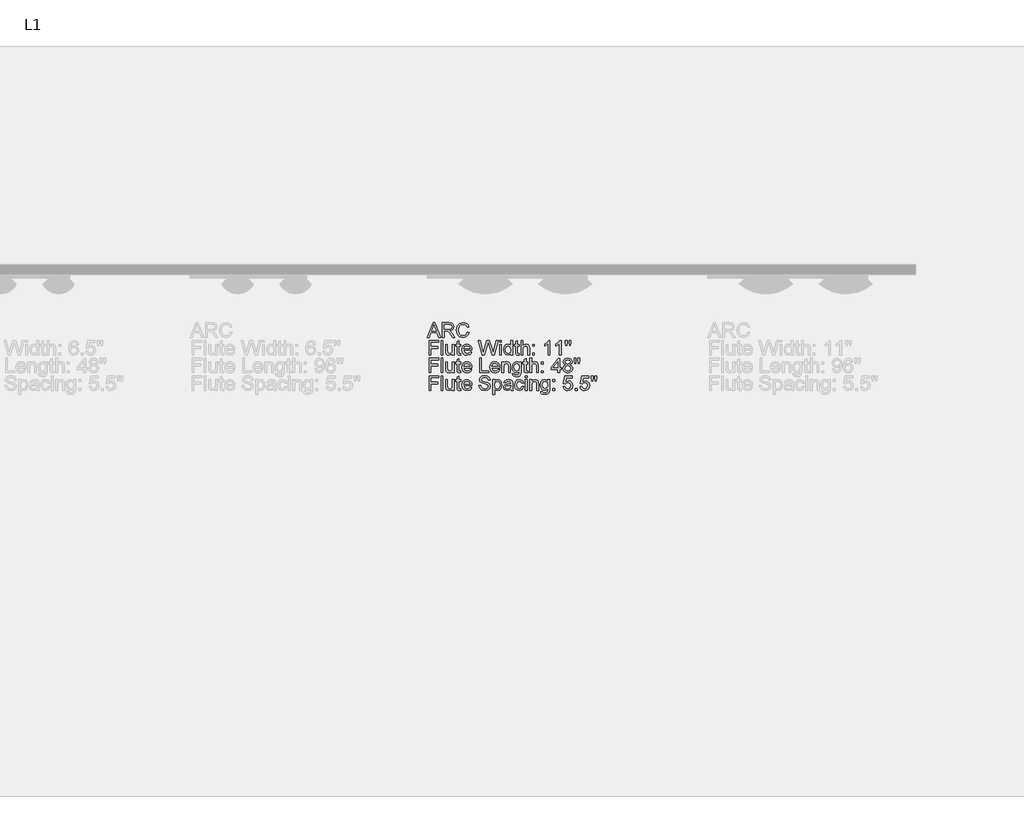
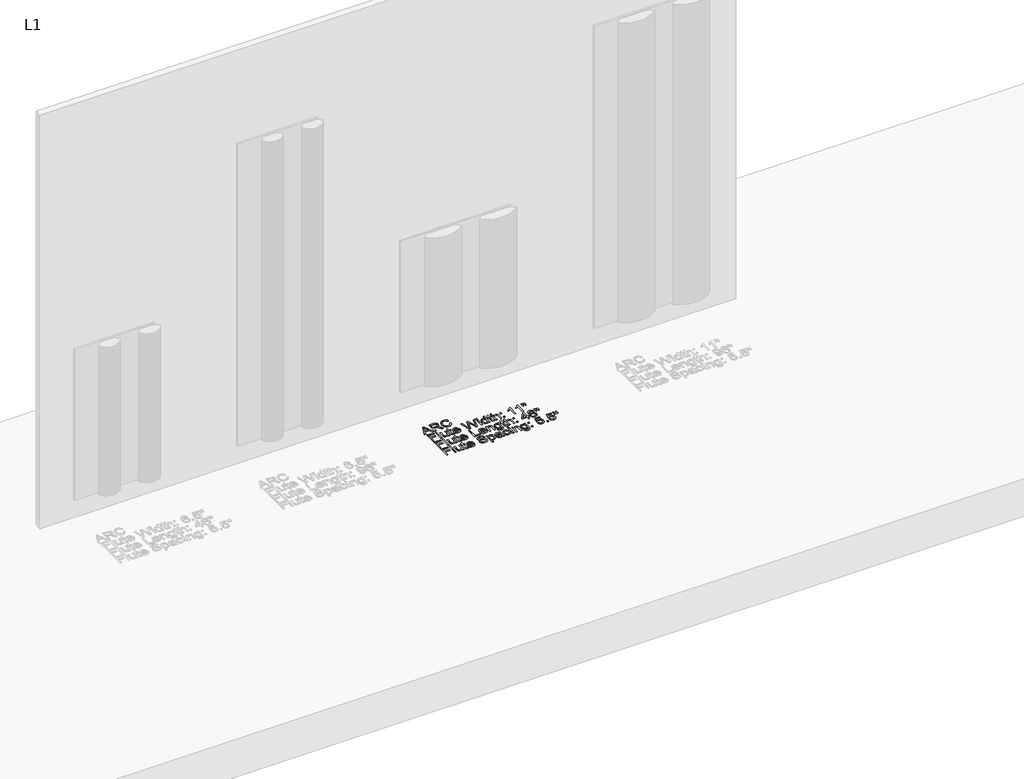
# One storey, part 5 of 17: 1 proxy.
"""IFC4 building model written with IfcOpenShell, lengths in millimetres."""

from ifc_helpers import new_model, si_unit, origin, origin_with_axes, place, context, project, spatial, polyline, outline, extrude, element, save

model = new_model("IFC4")

# Units and contexts
model_context = context("Model", 3, world=origin())
ifc_project = project(units=[si_unit("LENGTHUNIT", "METRE", prefix="MILLI")], contexts=[model_context])

# Site, building, storey
site = spatial("IfcSite", under=ifc_project)
building = spatial("IfcBuilding", under=site)
storey = spatial("IfcBuildingStorey", under=building, Name="L1", Elevation=0.0)

# Proxy
placement = place(None, origin())
element("IfcBuildingElementProxy", 1, Name="3\" Arial", ObjectType="3\" Arial", at=placement, inside=storey, context=model_context, shape_type="SweptSolid", body=[
    extrude(outline(polyline([(3993.6267247, -355.6), (4024.1822674, -279.0522917), (4032.3304121, -279.0522917), (4062.8672665, -355.6), (4052.7568392, -355.6), (4044.0106655, -331.6788411), (4012.4646372, -331.6788411), (4003.7184635, -355.6), (3993.6267247, -355.6)]), holes=[polyline([(4015.9780575, -322.1103776), (4040.5159337, -322.1103776), (4033.6012237, -303.2911534), (4028.2376514, -288.6207552), (4023.472108, -301.6465737), (4015.9780575, -322.1103776)])]), origin_with_axes(), (0.0, 0.0, 1.0), 3.175),
    extrude(outline(polyline([(4073.0898242, -355.6), (4073.0898242, -279.0522917), (4106.0748597, -279.0522917), (4121.3900079, -281.1173605), (4129.7624135, -288.424527), (4132.8927214, -300.0019941), (4127.7066889, -313.7940372), (4111.6813813, -320.9143197), (4117.1197072, -325.0070804), (4124.8753955, -334.8558701), (4137.6395763, -355.6), (4126.5199751, -355.6), (4116.5590551, -339.7335439), (4109.364019, -329.23066), (4104.3088054, -324.2688884), (4099.7581787, -322.4467689), (4094.2077223, -322.1103776), (4082.6582878, -322.1103776), (4082.6582878, -355.6), (4073.0898242, -355.6)]), holes=[polyline([(4082.6582878, -312.5419141), (4104.0752003, -312.5419141), (4114.9985732, -311.1870047), (4121.2031238, -306.8512946), (4123.3242578, -300.3570738), (4119.2782181, -291.928603), (4106.4860046, -288.6207552), (4082.6582878, -288.6207552), (4082.6582878, -312.5419141)])]), origin_with_axes(), (0.0, 0.0, 1.0), 3.175),
    extrude(outline(polyline([(4203.46014, -328.3896818), (4213.0286035, -330.8565513), (4208.6134678, -342.0065212), (4201.6847415, -350.1523298), (4192.5834881, -355.1351259), (4181.6507709, -356.7960579), (4161.738275, -351.7688769), (4150.0580217, -337.2106091), (4146.0493587, -316.7468053), (4150.581297, -295.9466101), (4163.4669525, -282.4629256), (4181.8563434, -277.8562337), (4192.3475469, -279.3466341), (4201.0213031, -283.817835), (4207.6066299, -290.9941827), (4211.8325456, -300.600023), (4202.264082, -302.8800085), (4194.4149518, -291.1156573), (4181.4825753, -287.4246973), (4166.5131626, -291.517458), (4158.0566592, -302.5062404), (4155.6178223, -316.7281169), (4158.5051809, -333.2112904), (4167.4943039, -343.7422068), (4180.6976623, -347.2275944), (4195.3400278, -342.4807394), (4203.46014, -328.3896818)])), origin_with_axes(), (0.0, 0.0, 1.0), 3.175),
    extrude(outline(polyline([(4002.5224056, -448.5448112), (4002.5224056, -371.9971029), (4053.9528971, -371.9971029), (4053.9528971, -381.5655664), (4012.0908691, -381.5655664), (4012.0908691, -404.2906673), (4047.9726074, -404.2906673), (4047.9726074, -413.8591309), (4012.0908691, -413.8591309), (4012.0908691, -448.5448112), (4002.5224056, -448.5448112)])), origin_with_axes(), (0.0, 0.0, 1.0), 3.175),
    extrude(outline(polyline([(4065.9134766, -448.5448112), (4065.9134766, -371.9971029), (4075.4819401, -371.9971029), (4075.4819401, -448.5448112), (4065.9134766, -448.5448112)])), origin_with_axes(), (0.0, 0.0, 1.0), 3.175),
    extrude(outline(polyline([(4125.7163737, -448.5448112), (4125.7163737, -438.8829056), (4118.2223232, -447.0263783), (4108.4482872, -449.7408691), (4099.44982, -447.8346518), (4093.2452694, -443.05042), (4090.3952876, -436.0048912), (4089.8346354, -427.1092103), (4089.8346354, -392.3300879), (4099.403099, -392.3300879), (4099.403099, -422.6053046), (4099.9824395, -432.3606522), (4103.7668416, -438.0886484), (4110.8964683, -440.1724056), (4118.8857615, -438.0419274), (4124.1652361, -432.2391775), (4125.7163737, -421.5774423), (4125.7163737, -392.3300879), (4135.2848372, -392.3300879), (4135.2848372, -448.5448112), (4125.7163737, -448.5448112)])), origin_with_axes(), (0.0, 0.0, 1.0), 3.175),
    extrude(outline(polyline([(4168.7744596, -440.5648621), (4169.9705176, -448.8251373), (4162.8128583, -449.7408691), (4154.7955324, -448.1523547), (4150.7962137, -443.9848403), (4149.6375326, -433.1268768), (4149.6375326, -401.8985514), (4142.4611849, -401.8985514), (4142.4611849, -392.3300879), (4149.6375326, -392.3300879), (4149.6375326, -378.6688636), (4159.2059961, -373.0436536), (4159.2059961, -392.3300879), (4168.7744596, -392.3300879), (4168.7744596, -401.8985514), (4159.2059961, -401.8985514), (4159.2059961, -432.8465507), (4159.710583, -437.7802897), (4161.3458185, -439.5276556), (4164.6069452, -440.1724056), (4168.7744596, -440.5648621)])), origin_with_axes(), (0.0, 0.0, 1.0), 3.175),
    extrude(outline(polyline([(4217.7007049, -431.8), (4227.0822843, -432.9960579), (4218.308078, -445.3490939), (4201.9650675, -449.7408691), (4190.738008, -447.846332), (4182.0992927, -442.1627208), (4176.5908852, -433.0591313), (4174.7547494, -420.9046597), (4176.6095736, -408.3413792), (4182.1740463, -398.9457834), (4190.6959591, -393.0869683), (4201.4231038, -391.1340299), (4211.8161932, -393.0822962), (4220.1208533, -398.927095), (4225.5661875, -408.3040024), (4227.3812988, -420.8485945), (4227.3252336, -423.4275944), (4184.3232129, -423.4275944), (4189.8269483, -435.855384), (4202.1519516, -440.1724056), (4211.5335311, -438.1727462), (4217.7007049, -431.8)]), holes=[polyline([(4184.3232129, -413.8591309), (4217.8128353, -413.8591309), (4213.9817122, -405.1877108), (4201.385727, -400.7024935), (4189.6026874, -404.2813231), (4184.3232129, -413.8591309)])]), origin_with_axes(), (0.0, 0.0, 1.0), 3.175),
    extrude(outline(polyline([(4281.74587, -448.5448112), (4260.8709212, -371.9971029), (4270.7383993, -371.9971029), (4282.8484859, -422.3062901), (4286.586167, -437.8363549), (4290.5854857, -424.100377), (4305.7604709, -371.9971029), (4319.9823474, -371.9971029), (4331.0085065, -409.7663701), (4339.2127165, -437.8363549), (4342.8382671, -422.7548118), (4355.0417958, -371.9971029), (4364.9279622, -371.9971029), (4344.0717019, -448.5448112), (4333.8304557, -448.5448112), (4315.4597533, -389.4894503), (4312.8994417, -381.2478635), (4310.0214273, -391.1714068), (4293.2953045, -448.5448112), (4281.74587, -448.5448112)])), origin_with_axes(), (0.0, 0.0, 1.0), 3.175),
    extrude(outline(polyline([(4373.3003678, -448.5448112), (4373.3003678, -392.3300879), (4382.8688314, -392.3300879), (4382.8688314, -448.5448112), (4373.3003678, -448.5448112)])), origin_with_axes(), (0.0, 0.0, 1.0), 3.175),
    extrude(outline(polyline([(4373.3003678, -381.5655664), (4373.3003678, -371.9971029), (4382.8688314, -371.9971029), (4382.8688314, -381.5655664), (4373.3003678, -381.5655664)])), origin_with_axes(), (0.0, 0.0, 1.0), 3.175),
    extrude(outline(polyline([(4431.907207, -448.5448112), (4431.907207, -439.5183114), (4425.5765097, -447.1852297), (4416.8256639, -449.7408691), (4404.9772149, -446.0405649), (4396.6048093, -435.7152209), (4393.6333529, -420.4935148), (4396.3712043, -405.2624644), (4404.5754142, -394.778269), (4416.7882871, -391.1340299), (4425.6092144, -393.7410625), (4431.907207, -400.5156094), (4431.907207, -371.9971029), (4441.4756706, -371.9971029), (4441.4756706, -448.5448112), (4431.907207, -448.5448112)]), holes=[polyline([(4403.2018164, -420.4561379), (4407.518838, -435.2666992), (4417.704019, -440.1724056), (4427.7677252, -435.4909601), (4431.907207, -421.1849858), (4427.6929716, -405.6549209), (4417.3115625, -400.7024935), (4407.238512, -405.4586927), (4403.2018164, -420.4561379)])]), origin_with_axes(), (0.0, 0.0, 1.0), 3.175),
    extrude(outline(polyline([(4476.1613509, -440.5648621), (4477.3574089, -448.8251373), (4470.1997496, -449.7408691), (4462.1824237, -448.1523547), (4458.183105, -443.9848403), (4457.0244238, -433.1268768), (4457.0244238, -401.8985514), (4449.8480762, -401.8985514), (4449.8480762, -392.3300879), (4457.0244238, -392.3300879), (4457.0244238, -378.6688636), (4466.5928874, -373.0436536), (4466.5928874, -392.3300879), (4476.1613509, -392.3300879), (4476.1613509, -401.8985514), (4466.5928874, -401.8985514), (4466.5928874, -432.8465507), (4467.0974743, -437.7802897), (4468.7327098, -439.5276556), (4471.9938365, -440.1724056), (4476.1613509, -440.5648621)])), origin_with_axes(), (0.0, 0.0, 1.0), 3.175),
    extrude(outline(polyline([(4485.7298145, -448.5448112), (4485.7298145, -371.9971029), (4495.298278, -371.9971029), (4495.298278, -400.1418413), (4502.7596238, -393.3859828), (4511.9496472, -391.1340299), (4522.6954802, -393.5915553), (4529.2177337, -400.3847906), (4531.1800163, -412.9620874), (4531.1800163, -448.5448112), (4521.6115527, -448.5448112), (4521.6115527, -413.9525729), (4518.5653427, -403.860834), (4509.9312994, -400.7024935), (4502.0915133, -402.8329717), (4496.8587598, -408.607689), (4495.298278, -418.6807394), (4495.298278, -448.5448112), (4485.7298145, -448.5448112)])), origin_with_axes(), (0.0, 0.0, 1.0), 3.175),
    extrude(outline(polyline([(4546.7287695, -401.8985514), (4546.7287695, -392.3300879), (4556.2972331, -392.3300879), (4556.2972331, -401.8985514), (4546.7287695, -401.8985514)])), origin_with_axes(), (0.0, 0.0, 1.0), 3.175),
    extrude(outline(polyline([(4546.7287695, -448.5448112), (4546.7287695, -438.9763477), (4556.2972331, -438.9763477), (4556.2972331, -448.5448112), (4546.7287695, -448.5448112)])), origin_with_axes(), (0.0, 0.0, 1.0), 3.175),
    extrude(outline(polyline([(4637.6291732, -448.5448112), (4628.0607096, -448.5448112), (4628.0607096, -388.8914213), (4618.996833, -395.3482654), (4608.9237826, -400.1792181), (4608.9237826, -391.1340299), (4622.9494308, -382.1822838), (4631.4619994, -371.9971029), (4637.6291732, -371.9971029), (4637.6291732, -448.5448112)])), origin_with_axes(), (0.0, 0.0, 1.0), 3.175),
    extrude(outline(polyline([(4696.2360124, -448.5448112), (4686.6675488, -448.5448112), (4686.6675488, -388.8914213), (4677.6036722, -395.3482654), (4667.5306218, -400.1792181), (4667.5306218, -391.1340299), (4681.55627, -382.1822838), (4690.0688386, -371.9971029), (4696.2360124, -371.9971029), (4696.2360124, -448.5448112)])), origin_with_axes(), (0.0, 0.0, 1.0), 3.175),
    extrude(outline(polyline([(4721.297164, -399.5064355), (4718.9611133, -384.7239069), (4718.9611133, -371.9971029), (4728.5295768, -371.9971029), (4728.5295768, -384.7239069), (4726.4364754, -399.5064355), (4721.297164, -399.5064355)])), origin_with_axes(), (0.0, 0.0, 1.0), 3.175),
    extrude(outline(polyline([(4740.3780258, -399.5064355), (4738.0980404, -384.7239069), (4738.0980404, -371.9971029), (4747.6665039, -371.9971029), (4747.6665039, -384.7239069), (4745.4238953, -399.5064355), (4740.3780258, -399.5064355)])), origin_with_axes(), (0.0, 0.0, 1.0), 3.175),
    extrude(outline(polyline([(4002.5224056, -541.4896224), (4002.5224056, -464.9419141), (4053.9528971, -464.9419141), (4053.9528971, -474.5103776), (4012.0908691, -474.5103776), (4012.0908691, -497.2354785), (4047.9726074, -497.2354785), (4047.9726074, -506.8039421), (4012.0908691, -506.8039421), (4012.0908691, -541.4896224), (4002.5224056, -541.4896224)])), origin_with_axes(), (0.0, 0.0, 1.0), 3.175),
    extrude(outline(polyline([(4065.9134766, -541.4896224), (4065.9134766, -464.9419141), (4075.4819401, -464.9419141), (4075.4819401, -541.4896224), (4065.9134766, -541.4896224)])), origin_with_axes(), (0.0, 0.0, 1.0), 3.175),
    extrude(outline(polyline([(4125.7163737, -541.4896224), (4125.7163737, -531.8277168), (4118.2223232, -539.9711895), (4108.4482872, -542.6856803), (4099.44982, -540.779463), (4093.2452694, -535.9952312), (4090.3952876, -528.9497024), (4089.8346354, -520.0540215), (4089.8346354, -485.2748991), (4099.403099, -485.2748991), (4099.403099, -515.5501158), (4099.9824395, -525.3054634), (4103.7668416, -531.0334596), (4110.8964683, -533.1172168), (4118.8857615, -530.9867386), (4124.1652361, -525.1839887), (4125.7163737, -514.5222535), (4125.7163737, -485.2748991), (4135.2848372, -485.2748991), (4135.2848372, -541.4896224), (4125.7163737, -541.4896224)])), origin_with_axes(), (0.0, 0.0, 1.0), 3.175),
    extrude(outline(polyline([(4168.7744596, -533.5096733), (4169.9705176, -541.7699485), (4162.8128583, -542.6856803), (4154.7955324, -541.0971659), (4150.7962137, -536.9296515), (4149.6375326, -526.071688), (4149.6375326, -494.8433626), (4142.4611849, -494.8433626), (4142.4611849, -485.2748991), (4149.6375326, -485.2748991), (4149.6375326, -471.6136748), (4159.2059961, -465.9884648), (4159.2059961, -485.2748991), (4168.7744596, -485.2748991), (4168.7744596, -494.8433626), (4159.2059961, -494.8433626), (4159.2059961, -525.7913619), (4159.710583, -530.7251009), (4161.3458185, -532.4724668), (4164.6069452, -533.1172168), (4168.7744596, -533.5096733)])), origin_with_axes(), (0.0, 0.0, 1.0), 3.175),
    extrude(outline(polyline([(4217.7007049, -524.7448112), (4227.0822843, -525.9408691), (4218.308078, -538.2939051), (4201.9650675, -542.6856803), (4190.738008, -540.7911432), (4182.0992927, -535.107532), (4176.5908852, -526.0039425), (4174.7547494, -513.8494709), (4176.6095736, -501.2861904), (4182.1740463, -491.8905946), (4190.6959591, -486.0317795), (4201.4231038, -484.0788411), (4211.8161932, -486.0271074), (4220.1208533, -491.8719062), (4225.5661875, -501.2488136), (4227.3812988, -513.7934057), (4227.3252336, -516.3724056), (4184.3232129, -516.3724056), (4189.8269483, -528.8001952), (4202.1519516, -533.1172168), (4211.5335311, -531.1175574), (4217.7007049, -524.7448112)]), holes=[polyline([(4184.3232129, -506.8039421), (4217.8128353, -506.8039421), (4213.9817122, -498.132522), (4201.385727, -493.6473047), (4189.6026874, -497.2261343), (4184.3232129, -506.8039421)])]), origin_with_axes(), (0.0, 0.0, 1.0), 3.175),
    extrude(outline(polyline([(4268.0472689, -541.4896224), (4268.0472689, -464.9419141), (4277.6157324, -464.9419141), (4277.6157324, -531.9211589), (4315.8895866, -531.9211589), (4315.8895866, -541.4896224), (4268.0472689, -541.4896224)])), origin_with_axes(), (0.0, 0.0, 1.0), 3.175),
    extrude(outline(polyline([(4364.8158318, -524.7448112), (4374.1974113, -525.9408691), (4365.423205, -538.2939051), (4349.0801945, -542.6856803), (4337.853135, -540.7911432), (4329.2144196, -535.107532), (4323.7060121, -526.0039425), (4321.8698763, -513.8494709), (4323.7247005, -501.2861904), (4329.2891732, -491.8905946), (4337.8110861, -486.0317795), (4348.5382307, -484.0788411), (4358.9313202, -486.0271074), (4367.2359803, -491.8719062), (4372.6813144, -501.2488136), (4374.4964258, -513.7934057), (4374.4403606, -516.3724056), (4331.4383398, -516.3724056), (4336.9420752, -528.8001952), (4349.2670786, -533.1172168), (4358.648658, -531.1175574), (4364.8158318, -524.7448112)]), holes=[polyline([(4331.4383398, -506.8039421), (4364.9279622, -506.8039421), (4361.0968391, -498.132522), (4348.5008539, -493.6473047), (4336.7178144, -497.2261343), (4331.4383398, -506.8039421)])]), origin_with_axes(), (0.0, 0.0, 1.0), 3.175),
    extrude(outline(polyline([(4384.0648893, -541.4896224), (4384.0648893, -485.2748991), (4393.6333529, -485.2748991), (4393.6333529, -493.1240293), (4400.9498636, -486.3401382), (4410.9388162, -484.0788411), (4419.9746602, -485.9009607), (4426.141834, -490.6851924), (4429.0105042, -497.7213771), (4429.5150911, -506.9721377), (4429.5150911, -541.4896224), (4419.9466276, -541.4896224), (4419.9466276, -508.2616377), (4418.8440117, -499.79579), (4414.9474792, -495.319917), (4408.3785047, -493.6473047), (4397.9970955, -497.4036742), (4393.6333529, -511.6629274), (4393.6333529, -541.4896224), (4384.0648893, -541.4896224)])), origin_with_axes(), (0.0, 0.0, 1.0), 3.175),
    extrude(outline(polyline([(4440.2796126, -546.2738542), (4449.8480762, -547.4699121), (4452.9503515, -552.5157816), (4462.2384889, -554.6462598), (4472.0312133, -552.2354555), (4476.7033147, -545.4702527), (4477.3574089, -534.3132747), (4470.6202387, -539.6955355), (4462.4066846, -541.4896224), (4452.5415426, -539.4011931), (4445.185319, -533.1359052), (4440.6089958, -523.950554), (4439.0835547, -513.1019347), (4441.8214061, -498.272685), (4449.7452899, -487.7791454), (4461.9394744, -484.0788411), (4470.4754036, -486.1719425), (4477.3574089, -492.4512467), (4477.3574089, -485.2748991), (4486.9258724, -485.2748991), (4486.9258724, -533.8086878), (4484.3094957, -552.3943069), (4476.0211879, -561.0376944), (4462.0516049, -564.2147233), (4446.1384277, -559.7388502), (4441.6415302, -554.1346647), (4440.2796126, -546.2738542)]), holes=[polyline([(4448.6520182, -512.4478405), (4452.7354348, -527.2584017), (4462.9860251, -531.9211589), (4473.2179271, -527.2864343), (4477.3574089, -512.7281666), (4473.0964524, -498.4595691), (4462.8365179, -493.6473047), (4452.7915, -498.3848154), (4448.6520182, -512.4478405)])]), origin_with_axes(), (0.0, 0.0, 1.0), 3.175),
    extrude(outline(polyline([(4521.6115527, -533.5096733), (4522.8076107, -541.7699485), (4515.6499514, -542.6856803), (4507.6326255, -541.0971659), (4503.6333068, -536.9296515), (4502.4746257, -526.071688), (4502.4746257, -494.8433626), (4495.298278, -494.8433626), (4495.298278, -485.2748991), (4502.4746257, -485.2748991), (4502.4746257, -471.6136748), (4512.0430892, -465.9884648), (4512.0430892, -485.2748991), (4521.6115527, -485.2748991), (4521.6115527, -494.8433626), (4512.0430892, -494.8433626), (4512.0430892, -525.7913619), (4512.5476761, -530.7251009), (4514.1829116, -532.4724668), (4517.4440383, -533.1172168), (4521.6115527, -533.5096733)])), origin_with_axes(), (0.0, 0.0, 1.0), 3.175),
    extrude(outline(polyline([(4531.1800163, -541.4896224), (4531.1800163, -464.9419141), (4540.7484798, -464.9419141), (4540.7484798, -493.0866525), (4548.2098257, -486.330794), (4557.399849, -484.0788411), (4568.1456821, -486.5363664), (4574.6679355, -493.3296018), (4576.6302181, -505.9068986), (4576.6302181, -541.4896224), (4567.0617546, -541.4896224), (4567.0617546, -506.8973841), (4564.0155445, -496.8056452), (4555.3815012, -493.6473047), (4547.5417152, -495.7777829), (4542.3089617, -501.5525002), (4540.7484798, -511.6255506), (4540.7484798, -541.4896224), (4531.1800163, -541.4896224)])), origin_with_axes(), (0.0, 0.0, 1.0), 3.175),
    extrude(outline(polyline([(4592.1789714, -494.8433626), (4592.1789714, -485.2748991), (4601.7474349, -485.2748991), (4601.7474349, -494.8433626), (4592.1789714, -494.8433626)])), origin_with_axes(), (0.0, 0.0, 1.0), 3.175),
    extrude(outline(polyline([(4592.1789714, -541.4896224), (4592.1789714, -531.9211589), (4601.7474349, -531.9211589), (4601.7474349, -541.4896224), (4592.1789714, -541.4896224)])), origin_with_axes(), (0.0, 0.0, 1.0), 3.175),
    extrude(outline(polyline([(4678.2951432, -541.4896224), (4678.2951432, -523.5487533), (4643.6094629, -523.5487533), (4643.6094629, -513.9802897), (4680.6872591, -466.137972), (4687.8636068, -466.137972), (4687.8636068, -513.9802897), (4697.4320703, -513.9802897), (4697.4320703, -523.5487533), (4687.8636068, -523.5487533), (4687.8636068, -541.4896224), (4678.2951432, -541.4896224)]), holes=[polyline([(4678.2951432, -513.9802897), (4678.2951432, -484.4152324), (4655.3831583, -513.9802897), (4678.2951432, -513.9802897)])]), origin_with_axes(), (0.0, 0.0, 1.0), 3.175),
    extrude(outline(polyline([(4719.7460263, -499.3285799), (4711.0278852, -493.385667), (4708.1965918, -484.1349064), (4709.7383852, -476.6548721), (4714.3637656, -470.473682), (4721.5541295, -466.3248561), (4730.7908739, -464.9419141), (4740.0836834, -466.3575608), (4747.3674894, -470.6045009), (4752.0769676, -476.8838051), (4753.6467936, -484.396544), (4750.852877, -493.4136996), (4742.3776852, -499.3285799), (4752.5535219, -506.8319747), (4756.0389095, -519.2130432), (4754.310232, -528.3610176), (4749.1241995, -535.9204776), (4741.1162178, -540.9943797), (4730.9216927, -542.6856803), (4720.7271676, -540.9873715), (4712.7191859, -535.892445), (4707.5331534, -528.2605675), (4705.8044759, -518.9514055), (4709.4300266, -506.2806667), (4719.7460263, -499.3285799)]), holes=[polyline([(4715.3729395, -518.6150142), (4716.9707981, -525.8193945), (4722.6240407, -531.2109995), (4730.9964463, -533.1172168), (4742.3963736, -529.1085538), (4746.470446, -518.9140287), (4742.2655548, -508.5232753), (4730.6787434, -504.4118262), (4719.4189792, -508.4672101), (4715.3729395, -518.6150142)]), polyline([(4717.7650553, -484.4152324), (4721.1570009, -491.9279714), (4731.0338231, -494.8433626), (4740.7144171, -491.9466598), (4744.0783301, -484.8450658), (4740.6022867, -477.4911783), (4730.9216927, -474.5103776), (4721.2130661, -477.4257688), (4717.7650553, -484.4152324)])]), origin_with_axes(), (0.0, 0.0, 1.0), 3.175),
    extrude(outline(polyline([(4766.7473658, -492.4512467), (4764.4113151, -477.6687181), (4764.4113151, -464.9419141), (4773.9797787, -464.9419141), (4773.9797787, -477.6687181), (4771.8866773, -492.4512467), (4766.7473658, -492.4512467)])), origin_with_axes(), (0.0, 0.0, 1.0), 3.175),
    extrude(outline(polyline([(4785.8282276, -492.4512467), (4783.5482422, -477.6687181), (4783.5482422, -464.9419141), (4793.1167057, -464.9419141), (4793.1167057, -477.6687181), (4790.8740971, -492.4512467), (4785.8282276, -492.4512467)])), origin_with_axes(), (0.0, 0.0, 1.0), 3.175),
    extrude(outline(polyline([(4002.5224056, -634.4344336), (4002.5224056, -557.8867253), (4053.9528971, -557.8867253), (4053.9528971, -567.4551888), (4012.0908691, -567.4551888), (4012.0908691, -590.1802897), (4047.9726074, -590.1802897), (4047.9726074, -599.7487533), (4012.0908691, -599.7487533), (4012.0908691, -634.4344336), (4002.5224056, -634.4344336)])), origin_with_axes(), (0.0, 0.0, 1.0), 3.175),
    extrude(outline(polyline([(4065.9134766, -634.4344336), (4065.9134766, -557.8867253), (4075.4819401, -557.8867253), (4075.4819401, -634.4344336), (4065.9134766, -634.4344336)])), origin_with_axes(), (0.0, 0.0, 1.0), 3.175),
    extrude(outline(polyline([(4125.7163737, -634.4344336), (4125.7163737, -624.772528), (4118.2223232, -632.9160007), (4108.4482872, -635.6304915), (4099.44982, -633.7242742), (4093.2452694, -628.9400424), (4090.3952876, -621.8945136), (4089.8346354, -612.9988327), (4089.8346354, -578.2197103), (4099.403099, -578.2197103), (4099.403099, -608.494927), (4099.9824395, -618.2502746), (4103.7668416, -623.9782708), (4110.8964683, -626.062028), (4118.8857615, -623.9315498), (4124.1652361, -618.1287999), (4125.7163737, -607.4670647), (4125.7163737, -578.2197103), (4135.2848372, -578.2197103), (4135.2848372, -634.4344336), (4125.7163737, -634.4344336)])), origin_with_axes(), (0.0, 0.0, 1.0), 3.175),
    extrude(outline(polyline([(4168.7744596, -626.4544845), (4169.9705176, -634.7147597), (4162.8128583, -635.6304915), (4154.7955324, -634.0419771), (4150.7962137, -629.8744627), (4149.6375326, -619.0164992), (4149.6375326, -587.7881738), (4142.4611849, -587.7881738), (4142.4611849, -578.2197103), (4149.6375326, -578.2197103), (4149.6375326, -564.558486), (4159.2059961, -558.933276), (4159.2059961, -578.2197103), (4168.7744596, -578.2197103), (4168.7744596, -587.7881738), (4159.2059961, -587.7881738), (4159.2059961, -618.7361731), (4159.710583, -623.6699121), (4161.3458185, -625.417278), (4164.6069452, -626.062028), (4168.7744596, -626.4544845)])), origin_with_axes(), (0.0, 0.0, 1.0), 3.175),
    extrude(outline(polyline([(4217.7007049, -617.6896224), (4227.0822843, -618.8856803), (4218.308078, -631.2387163), (4201.9650675, -635.6304915), (4190.738008, -633.7359544), (4182.0992927, -628.0523432), (4176.5908852, -618.9487537), (4174.7547494, -606.7942821), (4176.6095736, -594.2310016), (4182.1740463, -584.8354058), (4190.6959591, -578.9765907), (4201.4231038, -577.0236523), (4211.8161932, -578.9719186), (4220.1208533, -584.8167174), (4225.5661875, -594.1936248), (4227.3812988, -606.7382169), (4227.3252336, -609.3172168), (4184.3232129, -609.3172168), (4189.8269483, -621.7450064), (4202.1519516, -626.062028), (4211.5335311, -624.0623686), (4217.7007049, -617.6896224)]), holes=[polyline([(4184.3232129, -599.7487533), (4217.8128353, -599.7487533), (4213.9817122, -591.0773332), (4201.385727, -586.5921159), (4189.6026874, -590.1709455), (4184.3232129, -599.7487533)])]), origin_with_axes(), (0.0, 0.0, 1.0), 3.175),
    extrude(outline(polyline([(4264.4590951, -608.1211589), (4274.0275586, -608.1211589), (4277.1111455, -617.6989666), (4284.6425728, -623.7540099), (4296.1172537, -626.062028), (4306.1155506, -624.3146621), (4312.5723946, -619.5117419), (4314.6935286, -613.0922747), (4313.1050142, -607.1213292), (4306.6014491, -602.7762749), (4292.6692429, -599.1226917), (4277.6717976, -594.4038693), (4269.5329971, -587.2835869), (4266.8512109, -577.7711886), (4270.1684029, -566.9412577), (4279.8583411, -559.2976999), (4294.0428407, -556.6906673), (4309.1804491, -559.4191745), (4319.272188, -567.4365004), (4323.0659342, -579.4157682), (4313.4974707, -579.4157682), (4308.0778332, -569.585667), (4294.4166088, -566.2591309), (4280.7180077, -569.5482902), (4276.4196745, -577.4908625), (4279.4658846, -584.1252464), (4295.0893914, -589.4701303), (4312.0210867, -594.2730505), (4321.2811915, -602.0287387), (4324.2619922, -612.8493254), (4320.8326698, -624.2959737), (4310.9651918, -632.6496909), (4296.4910218, -635.6304915), (4279.4004751, -632.4160858), (4268.5892326, -622.7354918), (4264.4590951, -608.1211589)])), origin_with_axes(), (0.0, 0.0, 1.0), 3.175),
    extrude(outline(polyline([(4337.4186296, -655.9634766), (4337.4186296, -578.2197103), (4346.9870931, -578.2197103), (4346.9870931, -587.6012898), (4353.6027886, -579.6680617), (4362.5358464, -577.0236523), (4374.6646214, -580.7239566), (4382.5885053, -591.1520868), (4385.2609473, -605.8972386), (4382.2427698, -621.3992709), (4373.4779077, -631.9582199), (4361.3771652, -635.6304915), (4353.0514806, -633.1729662), (4346.9870931, -626.9590715), (4346.9870931, -655.9634766), (4337.4186296, -655.9634766)]), holes=[polyline([(4346.9870931, -606.7755937), (4351.1265749, -621.3525498), (4361.1715928, -626.062028), (4371.4221831, -621.1843542), (4375.6924837, -606.0654343), (4371.5249693, -591.4511013), (4361.5640493, -586.5921159), (4351.406901, -591.75946), (4346.9870931, -606.7755937)])]), origin_with_axes(), (0.0, 0.0, 1.0), 3.175),
    extrude(outline(polyline([(4431.907207, -627.2580859), (4422.6284138, -633.7429626), (4412.3778234, -635.6304915), (4398.4829941, -631.089209), (4393.6333529, -619.4837093), (4395.4648166, -611.9149051), (4400.277081, -606.420514), (4406.9768743, -603.2808619), (4415.2558379, -601.8418547), (4431.8511418, -598.5526953), (4431.907207, -596.4222171), (4429.2721419, -589.3579999), (4418.6945044, -586.5921159), (4409.0139105, -588.4329238), (4404.3978744, -594.9645215), (4394.8294108, -593.7684635), (4398.9688926, -584.4242609), (4407.3039214, -578.9485581), (4419.9279392, -577.0236523), (4431.5240947, -578.7242972), (4438.0743808, -582.9945979), (4441.0084604, -589.4888187), (4441.4756706, -597.8612243), (4441.4756706, -609.7657385), (4441.9615691, -626.3890751), (4443.8677865, -634.4344336), (4434.2993229, -634.4344336), (4431.907207, -627.2580859)]), holes=[polyline([(4431.907207, -608.1211589), (4416.4705842, -611.0552385), (4408.2383417, -612.6063761), (4404.5100048, -615.1293109), (4403.2018164, -618.8109267), (4406.0517982, -623.987615), (4414.4148596, -626.062028), (4424.0954536, -623.7726983), (4430.337381, -618.2315862), (4431.8511418, -610.8309776), (4431.907207, -608.1211589)])]), origin_with_axes(), (0.0, 0.0, 1.0), 3.175),
    extrude(outline(polyline([(4490.5140462, -614.1014486), (4500.0825098, -615.2975065), (4492.4015752, -630.2388866), (4477.22659, -635.6304915), (4467.0484173, -633.7499707), (4459.0894926, -628.1084084), (4453.9525172, -618.9534258), (4452.2401921, -606.5326444), (4455.1649275, -590.6381556), (4464.0792969, -580.4249421), (4477.0957712, -577.0236523), (4491.6446948, -581.6957537), (4498.8864518, -594.9645215), (4489.3179883, -596.1605794), (4484.879492, -588.993576), (4477.1705248, -586.5921159), (4466.0789562, -591.3202824), (4461.8086556, -606.2710067), (4465.9855142, -621.361894), (4476.9088871, -626.062028), (4485.9260427, -623.1279484), (4490.5140462, -614.1014486)])), origin_with_axes(), (0.0, 0.0, 1.0), 3.175),
    extrude(outline(polyline([(4508.4549154, -567.4551888), (4508.4549154, -557.8867253), (4518.0233789, -557.8867253), (4518.0233789, -567.4551888), (4508.4549154, -567.4551888)])), origin_with_axes(), (0.0, 0.0, 1.0), 3.175),
    extrude(outline(polyline([(4508.4549154, -634.4344336), (4508.4549154, -578.2197103), (4518.0233789, -578.2197103), (4518.0233789, -634.4344336), (4508.4549154, -634.4344336)])), origin_with_axes(), (0.0, 0.0, 1.0), 3.175),
    extrude(outline(polyline([(4532.3760742, -634.4344336), (4532.3760742, -578.2197103), (4541.9445378, -578.2197103), (4541.9445378, -586.0688405), (4549.2610485, -579.2849494), (4559.2500011, -577.0236523), (4568.2858451, -578.8457719), (4574.4530189, -583.6300036), (4577.3216891, -590.6661883), (4577.826276, -599.9169489), (4577.826276, -634.4344336), (4568.2578125, -634.4344336), (4568.2578125, -601.2064489), (4567.1551966, -592.7406012), (4563.2586641, -588.2647282), (4556.6896896, -586.5921159), (4546.3082804, -590.3484854), (4541.9445378, -604.6077386), (4541.9445378, -634.4344336), (4532.3760742, -634.4344336)])), origin_with_axes(), (0.0, 0.0, 1.0), 3.175),
    extrude(outline(polyline([(4588.5907975, -639.2186654), (4598.1592611, -640.4147233), (4601.2615364, -645.4605928), (4610.5496738, -647.591071), (4620.3423982, -645.1802667), (4625.0144996, -638.4150639), (4625.6685938, -627.2580859), (4618.9314236, -632.6403467), (4610.7178695, -634.4344336), (4600.8527275, -632.3460043), (4593.4965039, -626.0807164), (4588.9201807, -616.8953652), (4587.3947396, -606.0467459), (4590.132591, -591.2174962), (4598.0564748, -580.7239566), (4610.2506593, -577.0236523), (4618.7865885, -579.1167537), (4625.6685938, -585.3960579), (4625.6685938, -578.2197103), (4635.2370573, -578.2197103), (4635.2370573, -626.753499), (4632.6206805, -645.3391181), (4624.3323728, -653.9825056), (4610.3627898, -657.1595345), (4594.4496126, -652.6836614), (4589.9527151, -647.0794759), (4588.5907975, -639.2186654)]), holes=[polyline([(4596.9632031, -605.3926517), (4601.0466197, -620.2032129), (4611.29721, -624.8659701), (4621.529112, -620.2312455), (4625.6685938, -605.6729778), (4621.4076373, -591.4043803), (4611.1477028, -586.5921159), (4601.1026849, -591.3296266), (4596.9632031, -605.3926517)])]), origin_with_axes(), (0.0, 0.0, 1.0), 3.175),
    extrude(outline(polyline([(4651.9818685, -587.7881738), (4651.9818685, -578.2197103), (4661.550332, -578.2197103), (4661.550332, -587.7881738), (4651.9818685, -587.7881738)])), origin_with_axes(), (0.0, 0.0, 1.0), 3.175),
    extrude(outline(polyline([(4651.9818685, -634.4344336), (4651.9818685, -624.8659701), (4661.550332, -624.8659701), (4661.550332, -634.4344336), (4651.9818685, -634.4344336)])), origin_with_axes(), (0.0, 0.0, 1.0), 3.175),
    extrude(outline(polyline([(4707.0005339, -614.1014486), (4716.5689974, -612.9053906), (4721.390606, -622.7635245), (4731.3889028, -626.062028), (4743.3868591, -621.4740245), (4747.6665039, -609.2985284), (4743.657841, -597.9359779), (4731.5384101, -593.7684635), (4723.1379719, -595.4317316), (4717.7650553, -599.7487533), (4708.1965918, -598.5526953), (4716.5689974, -559.0827832), (4753.6467936, -559.0827832), (4753.6467936, -568.6512467), (4724.3059972, -568.6512467), (4720.194548, -589.731768), (4734.1921637, -584.2), (4743.1345656, -585.9146612), (4750.5632067, -591.0586448), (4755.5670273, -598.8984308), (4757.2349675, -608.7004994), (4755.7352229, -618.268963), (4751.2359893, -626.4544845), (4742.6206345, -633.3364898), (4731.351526, -635.6304915), (4721.9535942, -634.1564436), (4714.4665518, -629.7342996), (4709.3342485, -622.8779909), (4707.0005339, -614.1014486)])), origin_with_axes(), (0.0, 0.0, 1.0), 3.175),
    extrude(outline(polyline([(4770.3916048, -634.4344336), (4770.3916048, -624.8659701), (4779.9600684, -624.8659701), (4779.9600684, -634.4344336), (4770.3916048, -634.4344336)])), origin_with_axes(), (0.0, 0.0, 1.0), 3.175),
    extrude(outline(polyline([(4795.5088216, -614.1014486), (4805.0772852, -612.9053906), (4809.8988937, -622.7635245), (4819.8971906, -626.062028), (4831.8951468, -621.4740245), (4836.1747917, -609.2985284), (4832.1661287, -597.9359779), (4820.0466979, -593.7684635), (4811.6462596, -595.4317316), (4806.2733431, -599.7487533), (4796.7048796, -598.5526953), (4805.0772852, -559.0827832), (4842.1550814, -559.0827832), (4842.1550814, -568.6512467), (4812.814285, -568.6512467), (4808.7028358, -589.731768), (4822.7004514, -584.2), (4831.6428534, -585.9146612), (4839.0714945, -591.0586448), (4844.075315, -598.8984308), (4845.7432552, -608.7004994), (4844.2435107, -618.268963), (4839.7442771, -626.4544845), (4831.1289222, -633.3364898), (4819.8598138, -635.6304915), (4810.461882, -634.1564436), (4802.9748396, -629.7342996), (4797.8425362, -622.8779909), (4795.5088216, -614.1014486)])), origin_with_axes(), (0.0, 0.0, 1.0), 3.175),
    extrude(outline(polyline([(4856.4517115, -585.3960579), (4854.1156608, -570.6135293), (4854.1156608, -557.8867253), (4863.6841244, -557.8867253), (4863.6841244, -570.6135293), (4861.591023, -585.3960579), (4856.4517115, -585.3960579)])), origin_with_axes(), (0.0, 0.0, 1.0), 3.175),
    extrude(outline(polyline([(4875.5325734, -585.3960579), (4873.2525879, -570.6135293), (4873.2525879, -557.8867253), (4882.8210514, -557.8867253), (4882.8210514, -570.6135293), (4880.5784428, -585.3960579), (4875.5325734, -585.3960579)])), origin_with_axes(), (0.0, 0.0, 1.0), 3.175),
])

save(model, "model.ifc")
